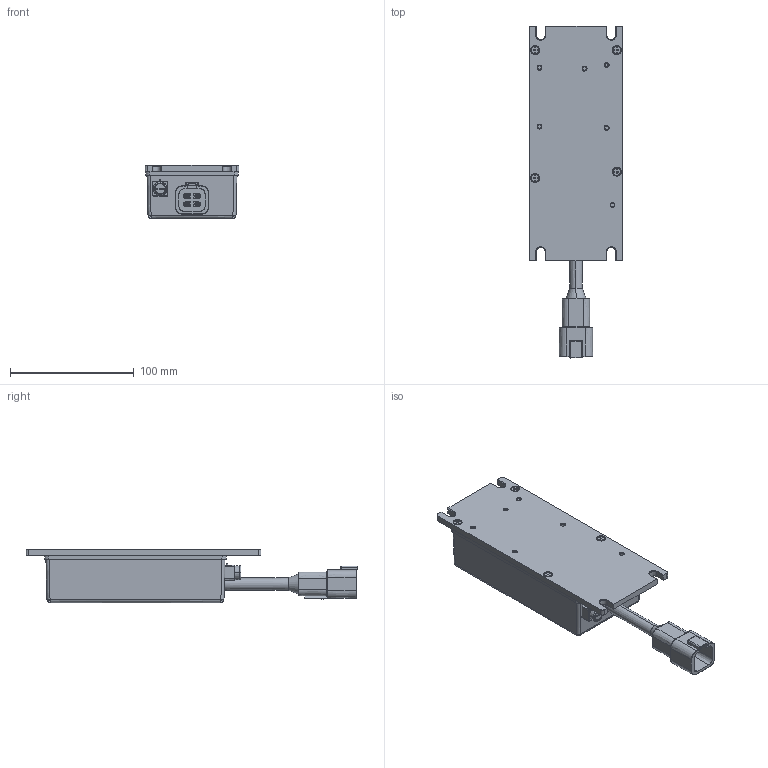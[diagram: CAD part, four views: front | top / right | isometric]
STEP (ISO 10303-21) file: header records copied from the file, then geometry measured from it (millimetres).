
FILE_DESCRIPTION (( 'STEP AP214' ), '1' );
FILE_NAME ('RMOD300(360)-EW(UW)_F_DT_3D_20210414.STEP', '2021-04-14T10:34:13', ( '' ), ( '' ), 'SwSTEP 2.0', 'SolidWorks 2019', '' );
FILE_SCHEMA (( 'AUTOMOTIVE_DESIGN' ));
Length unit declared in the file: millimetre
Products named in the file (1): RMOD300(360)-EW(UW)_F_DT_3D_20210414
Bounding box: 76 x 268.43 x 43 mm (x, y, z)
Surface area: 101185.5 mm2 (no closed solid volume)
Topology: 0 solids, 32 shells, 990 faces, 2638 edges, 1696 vertices
Faces by surface type: bspline 876, torus 80, sphere 34
Entity records: 67706 total; most frequent: CARTESIAN_POINT 51020, ORIENTED_EDGE 5098, EDGE_CURVE 2558, B_SPLINE_CURVE_WITH_KNOTS 2516, VERTEX_POINT 1652, EDGE_LOOP 1047, ADVANCED_FACE 990, FACE_OUTER_BOUND 990
